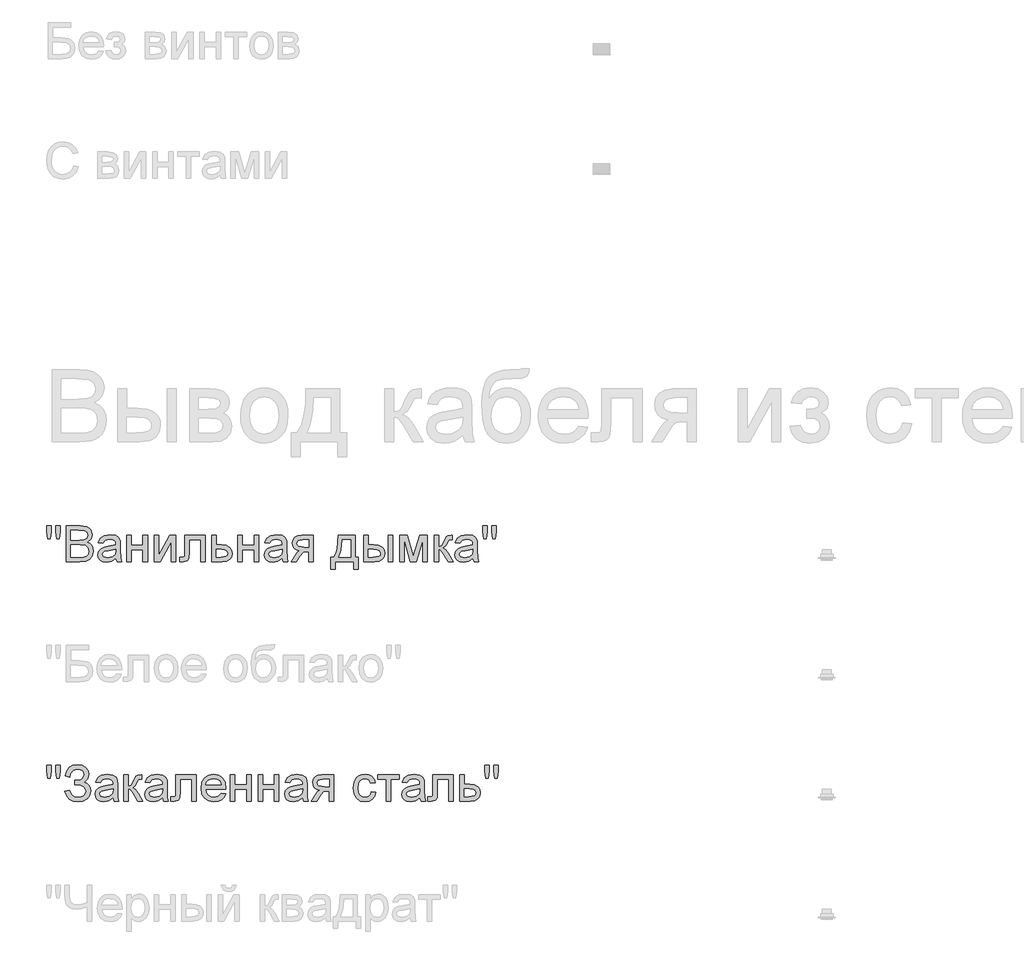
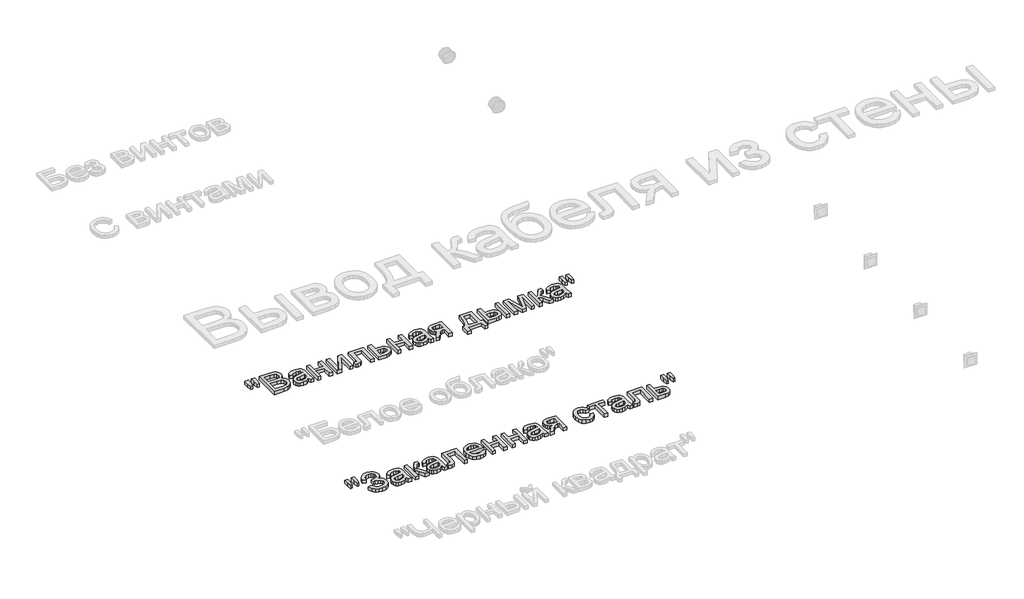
# One storey, part 99 of 168: 2 proxies.
"""IFC4 building model written with IfcOpenShell, lengths in millimetres."""

from ifc_helpers import new_model, si_unit, origin, origin_with_axes, place, context, project, spatial, polyline, outline, extrude, element, save

model = new_model("IFC4")

# Units and contexts
model_context = context("Model", 3, world=origin())
ifc_project = project(units=[si_unit("LENGTHUNIT", "METRE", prefix="MILLI")], contexts=[model_context])

# Site, building, storey
site = spatial("IfcSite", under=ifc_project)
building = spatial("IfcBuilding", under=site)
storey = spatial("IfcBuildingStorey", under=building, Name="Этаж 01", Elevation=0.0)

# Proxies
placement = place(None, origin())
element("IfcBuildingElementProxy", 1, Name="150", ObjectType="150", at=placement, inside=storey, context=model_context, shape_type="SweptSolid", body=[
    extrude(outline(polyline([(32880.1485789, -22851.873446), (32875.550054, -22822.7739802), (32875.550054, -22797.7212163), (32894.3856121, -22797.7212163), (32894.3856121, -22822.7739802), (32890.2653338, -22851.873446), (32880.1485789, -22851.873446)])), origin_with_axes(), (0.0, 0.0, 1.0), 20.0),
    extrude(outline(polyline([(32917.7093306, -22851.873446), (32913.2211703, -22822.7739802), (32913.2211703, -22797.7212163), (32932.0567284, -22797.7212163), (32932.0567284, -22822.7739802), (32927.6421445, -22851.873446), (32917.7093306, -22851.873446)])), origin_with_axes(), (0.0, 0.0, 1.0), 20.0),
    extrude(outline(polyline([(32957.9556209, -22948.4056816), (32957.9556209, -22797.7212163), (33015.4555767, -22797.7212163), (33043.6169435, -22802.1541944), (33053.0807078, -22807.7781904), (33060.2452096, -22815.7842223), (33066.2600803, -22835.0612389), (33061.2017028, -22852.6643923), (33045.9162059, -22866.0001146), (33056.5893823, -22871.5735269), (33064.4758526, -22880.0532069), (33069.3456905, -22890.8781346), (33070.9689698, -22903.48729), (33066.5359918, -22923.7391938), (33055.5547142, -22938.160168), (33039.1655713, -22945.8121135), (33015.0141183, -22948.4056816), (32957.9556209, -22948.4056816)]), holes=[polyline([(32976.791179, -22858.9367803), (33011.1881456, -22858.9367803), (33031.2745025, -22857.3180996), (33043.3594261, -22850.3467358), (33047.4245221, -22838.0778712), (33043.6353376, -22825.7906126), (33032.7828187, -22818.5249432), (33008.5761834, -22816.5567745), (32976.791179, -22816.5567745), (32976.791179, -22858.9367803)]), polyline([(32976.791179, -22929.5701234), (33015.4187885, -22929.5701234), (33029.3983043, -22928.8343594), (33041.2257105, -22924.7324752), (33049.061597, -22916.3631598), (33052.1334117, -22903.671231), (33048.5281681, -22889.0295275), (33036.8479148, -22880.2923302), (33013.5793786, -22877.7723385), (32976.791179, -22877.7723385), (32976.791179, -22929.5701234)])]), origin_with_axes(), (0.0, 0.0, 1.0), 20.0),
    extrude(outline(polyline([(33165.1467606, -22934.279013), (33146.8814195, -22947.0445182), (33126.7030921, -22950.7601263), (33110.9623412, -22948.5252432), (33099.3510657, -22941.8205939), (33092.1911624, -22931.6394596), (33089.804528, -22918.975122), (33093.4097715, -22904.0759012), (33102.8827329, -22893.2601705), (33116.0713024, -22887.079753), (33132.3684748, -22884.2470616), (33165.036396, -22877.7723385), (33165.1467606, -22873.5784838), (33163.8499765, -22865.1723802), (33159.9596244, -22859.6725443), (33151.2592153, -22855.5890542), (33139.1375035, -22854.2278908), (33120.0812162, -22857.8515285), (33110.9945309, -22870.7090042), (33092.1589727, -22868.3545594), (33100.3075589, -22849.9604597), (33116.7150959, -22839.1815172), (33141.5655247, -22835.3923327), (33164.3926025, -22838.7400588), (33177.2868664, -22847.1461624), (33183.0626137, -22859.9300617), (33183.9823187, -22876.4111751), (33183.9823187, -22899.8452582), (33184.9388119, -22932.5683617), (33188.6912083, -22948.4056816), (33169.8556501, -22948.4056816), (33165.1467606, -22934.279013)]), holes=[polyline([(33165.1467606, -22896.6078966), (33134.7597078, -22902.383644), (33118.5545059, -22905.4370645), (33111.2152601, -22910.4034715), (33108.6400861, -22917.6507468), (33114.2502865, -22927.841078), (33130.7130058, -22931.9245682), (33149.7692932, -22927.4180137), (33162.0565518, -22916.5103126), (33165.036396, -22901.9421856), (33165.1467606, -22896.6078966)])]), origin_with_axes(), (0.0, 0.0, 1.0), 20.0),
    extrude(outline(polyline([(33209.8812112, -22837.7467774), (33228.7167693, -22837.7467774), (33228.7167693, -22880.1267833), (33278.1601095, -22880.1267833), (33278.1601095, -22837.7467774), (33296.9956676, -22837.7467774), (33296.9956676, -22948.4056816), (33278.1601095, -22948.4056816), (33278.1601095, -22898.9623414), (33228.7167693, -22898.9623414), (33228.7167693, -22948.4056816), (33209.8812112, -22948.4056816), (33209.8812112, -22837.7467774)])), origin_with_axes(), (0.0, 0.0, 1.0), 20.0),
    extrude(outline(polyline([(33325.2490049, -22837.7467774), (33344.084563, -22837.7467774), (33344.084563, -22922.1389071), (33390.364118, -22837.7467774), (33414.7179061, -22837.7467774), (33414.7179061, -22948.4056816), (33395.8823479, -22948.4056816), (33395.8823479, -22864.5285867), (33349.8970985, -22948.4056816), (33325.2490049, -22948.4056816), (33325.2490049, -22837.7467774)])), origin_with_axes(), (0.0, 0.0, 1.0), 20.0),
    extrude(outline(polyline([(33452.3890224, -22837.7467774), (33537.1490341, -22837.7467774), (33537.1490341, -22948.295317), (33518.3134759, -22948.295317), (33518.3134759, -22856.5823356), (33471.2245806, -22856.5823356), (33471.2245806, -22909.3734019), (33469.9553877, -22933.72719), (33462.9840239, -22944.0094917), (33446.5029105, -22948.4056816), (33431.1990195, -22947.4491884), (33431.1990195, -22929.5701234), (33439.6235172, -22929.5701234), (33448.1399854, -22928.4112951), (33451.5428938, -22924.7324752), (33452.3890224, -22908.3065441), (33452.3890224, -22837.7467774)])), origin_with_axes(), (0.0, 0.0, 1.0), 20.0),
    extrude(outline(polyline([(33565.4023713, -22837.7467774), (33584.2379295, -22837.7467774), (33584.2379295, -22877.7723385), (33605.9429672, -22877.7723385), (33624.7601312, -22880.1313818), (33638.6844648, -22887.2085117), (33647.2929034, -22898.433511), (33650.162383, -22913.2361628), (33647.7205663, -22926.7144394), (33640.395116, -22938.0865916), (33627.6985887, -22945.8259091), (33609.1435405, -22948.4056816), (33565.4023713, -22948.4056816), (33565.4023713, -22837.7467774)]), holes=[polyline([(33584.2379295, -22929.5701234), (33601.8226888, -22929.5701234), (33624.539402, -22925.615392), (33629.6299692, -22920.552416), (33631.3268249, -22913.272951), (33626.3052356, -22901.6846682), (33618.2348244, -22897.8770895), (33604.066769, -22896.6078966), (33584.2379295, -22896.6078966), (33584.2379295, -22929.5701234)])]), origin_with_axes(), (0.0, 0.0, 1.0), 20.0),
    extrude(outline(polyline([(33673.7068307, -22837.7467774), (33692.5423889, -22837.7467774), (33692.5423889, -22880.1267833), (33741.985729, -22880.1267833), (33741.985729, -22837.7467774), (33760.8212872, -22837.7467774), (33760.8212872, -22948.4056816), (33741.985729, -22948.4056816), (33741.985729, -22898.9623414), (33692.5423889, -22898.9623414), (33692.5423889, -22948.4056816), (33673.7068307, -22948.4056816), (33673.7068307, -22837.7467774)])), origin_with_axes(), (0.0, 0.0, 1.0), 20.0),
    extrude(outline(polyline([(33859.7079675, -22934.279013), (33841.4426264, -22947.0445182), (33821.264299, -22950.7601263), (33805.5235481, -22948.5252432), (33793.9122726, -22941.8205939), (33786.7523693, -22931.6394596), (33784.3657349, -22918.975122), (33787.9709784, -22904.0759012), (33797.4439398, -22893.2601705), (33810.6325093, -22887.079753), (33826.9296817, -22884.2470616), (33859.5976029, -22877.7723385), (33859.7079675, -22873.5784838), (33858.4111834, -22865.1723802), (33854.5208313, -22859.6725443), (33845.8204221, -22855.5890542), (33833.6987104, -22854.2278908), (33814.6424231, -22857.8515285), (33805.5557378, -22870.7090042), (33786.7201796, -22868.3545594), (33794.8687658, -22849.9604597), (33811.2763028, -22839.1815172), (33836.1267316, -22835.3923327), (33858.9538094, -22838.7400588), (33871.8480733, -22847.1461624), (33877.6238206, -22859.9300617), (33878.5435256, -22876.4111751), (33878.5435256, -22899.8452582), (33879.5000188, -22932.5683617), (33883.2524152, -22948.4056816), (33864.416857, -22948.4056816), (33859.7079675, -22934.279013)]), holes=[polyline([(33859.7079675, -22896.6078966), (33829.3209147, -22902.383644), (33813.1157128, -22905.4370645), (33805.776467, -22910.4034715), (33803.201293, -22917.6507468), (33808.8114934, -22927.841078), (33825.2742127, -22931.9245682), (33844.3305001, -22927.4180137), (33856.6177587, -22916.5103126), (33859.5976029, -22901.9421856), (33859.7079675, -22896.6078966)])]), origin_with_axes(), (0.0, 0.0, 1.0), 20.0),
    extrude(outline(polyline([(33989.2024298, -22837.7467774), (33989.2024298, -22948.4056816), (33970.3668716, -22948.4056816), (33970.3668716, -22906.0256757), (33960.1029639, -22906.0256757), (33946.1234481, -22908.4169087), (33932.9900609, -22924.4933519), (33917.9804755, -22948.4056816), (33896.2018614, -22948.4056816), (33915.1109959, -22918.1657816), (33923.4619172, -22907.3132627), (33931.1506509, -22902.4940086), (33918.2747811, -22898.5484742), (33909.224884, -22891.0528785), (33903.872201, -22881.0832765), (33902.0879733, -22869.7157228), (33904.5251915, -22856.8214589), (33911.8368462, -22846.6127335), (33923.7654199, -22839.9632664), (33940.0533952, -22837.7467774), (33989.2024298, -22837.7467774)]), holes=[polyline([(33970.3668716, -22856.5823356), (33945.5348369, -22856.5823356), (33932.7095509, -22857.672186), (33925.4300859, -22860.9417372), (33920.9235315, -22871.1504626), (33922.583599, -22878.32876), (33927.5638015, -22883.3089625), (33951.0898551, -22887.1901176), (33970.3668716, -22887.1901176), (33970.3668716, -22856.5823356)])]), origin_with_axes(), (0.0, 0.0, 1.0), 20.0),
    extrude(outline(polyline([(34092.7979996, -22837.7467774), (34163.4313427, -22837.7467774), (34163.4313427, -22929.5701234), (34177.5580113, -22929.5701234), (34177.5580113, -22979.0134636), (34158.7224531, -22979.0134636), (34158.7224531, -22948.4056816), (34081.0257758, -22948.4056816), (34081.0257758, -22979.0134636), (34062.1902176, -22979.0134636), (34062.1902176, -22929.5701234), (34073.9624415, -22929.5701234), (34082.5202964, -22914.105284), (34088.5121744, -22893.6464466), (34092.7979996, -22837.7467774)]), holes=[polyline([(34109.279113, -22856.5823356), (34104.864529, -22899.4957703), (34095.1524444, -22929.5701234), (34144.5957845, -22929.5701234), (34144.5957845, -22856.5823356), (34109.279113, -22856.5823356)])]), origin_with_axes(), (0.0, 0.0, 1.0), 20.0),
    extrude(outline(polyline([(34302.3435841, -22837.7467774), (34321.1791422, -22837.7467774), (34321.1791422, -22948.4056816), (34302.3435841, -22948.4056816), (34302.3435841, -22837.7467774)])), origin_with_axes(), (0.0, 0.0, 1.0), 20.0),
    extrude(outline(polyline([(34198.7480142, -22837.7467774), (34217.5835724, -22837.7467774), (34217.5835724, -22877.7723385), (34240.8705027, -22877.7723385), (34260.9982463, -22880.1313818), (34275.9112627, -22887.2085117), (34285.1405023, -22898.433511), (34288.2169154, -22913.2361628), (34285.637143, -22926.7144394), (34277.8978255, -22938.0865916), (34264.4931253, -22945.8259091), (34244.9172046, -22948.4056816), (34198.7480142, -22948.4056816), (34198.7480142, -22837.7467774)]), holes=[polyline([(34217.5835724, -22929.5701234), (34236.9341653, -22929.5701234), (34261.9133528, -22925.615392), (34267.5143562, -22920.552416), (34269.3813573, -22913.272951), (34263.8447333, -22901.6846682), (34254.9649816, -22897.8770895), (34239.3989747, -22896.6078966), (34217.5835724, -22896.6078966), (34217.5835724, -22929.5701234)])]), origin_with_axes(), (0.0, 0.0, 1.0), 20.0),
    extrude(outline(polyline([(34349.4324794, -22837.7467774), (34381.8428832, -22837.7467774), (34406.8220707, -22926.3327619), (34433.7510327, -22837.7467774), (34464.8002731, -22837.7467774), (34464.8002731, -22948.4056816), (34445.964715, -22948.4056816), (34445.964715, -22859.3046623), (34418.8886001, -22948.4056816), (34394.1669301, -22948.4056816), (34368.2680376, -22855.0372312), (34368.2680376, -22948.4056816), (34349.4324794, -22948.4056816), (34349.4324794, -22837.7467774)])), origin_with_axes(), (0.0, 0.0, 1.0), 20.0),
    extrude(outline(polyline([(34493.0536104, -22837.7467774), (34511.8891685, -22837.7467774), (34511.8891685, -22884.8356728), (34524.5075209, -22881.4511584), (34534.845005, -22861.7326835), (34543.4350496, -22844.7181412), (34551.0134187, -22839.1815172), (34564.7905994, -22837.7467774), (34568.395843, -22837.7467774), (34568.395843, -22856.6927002), (34563.3190714, -22856.5823356), (34554.1220216, -22858.5688983), (34547.6472984, -22870.9665216), (34540.0505352, -22884.3758203), (34529.4003515, -22890.9425139), (34541.2829399, -22898.2725627), (34552.9447992, -22913.7144094), (34573.1047325, -22948.4056816), (34551.6940004, -22948.4056816), (34531.9387372, -22914.4501734), (34522.0059234, -22900.0843815), (34511.8891685, -22896.6078966), (34511.8891685, -22948.4056816), (34493.0536104, -22948.4056816), (34493.0536104, -22837.7467774)])), origin_with_axes(), (0.0, 0.0, 1.0), 20.0),
    extrude(outline(polyline([(34655.5102994, -22934.279013), (34637.2449584, -22947.0445182), (34617.0666309, -22950.7601263), (34601.3258801, -22948.5252432), (34589.7146046, -22941.8205939), (34582.5547013, -22931.6394596), (34580.1680668, -22918.975122), (34583.7733104, -22904.0759012), (34593.2462717, -22893.2601705), (34606.4348413, -22887.079753), (34622.7320137, -22884.2470616), (34655.3999348, -22877.7723385), (34655.5102994, -22873.5784838), (34654.2135154, -22865.1723802), (34650.3231633, -22859.6725443), (34641.6227541, -22855.5890542), (34629.5010424, -22854.2278908), (34610.444755, -22857.8515285), (34601.3580697, -22870.7090042), (34582.5225116, -22868.3545594), (34590.6710978, -22849.9604597), (34607.0786348, -22839.1815172), (34631.9290635, -22835.3923327), (34654.7561413, -22838.7400588), (34667.6504053, -22847.1461624), (34673.4261526, -22859.9300617), (34674.3458576, -22876.4111751), (34674.3458576, -22899.8452582), (34675.3023508, -22932.5683617), (34679.0547471, -22948.4056816), (34660.219189, -22948.4056816), (34655.5102994, -22934.279013)]), holes=[polyline([(34655.5102994, -22896.6078966), (34625.1232466, -22902.383644), (34608.9180447, -22905.4370645), (34601.5787989, -22910.4034715), (34599.003625, -22917.6507468), (34604.6138254, -22927.841078), (34621.0765447, -22931.9245682), (34640.132832, -22927.4180137), (34652.4200907, -22916.5103126), (34655.3999348, -22901.9421856), (34655.5102994, -22896.6078966)])]), origin_with_axes(), (0.0, 0.0, 1.0), 20.0),
    extrude(outline(polyline([(34700.1343854, -22851.873446), (34695.5358605, -22822.7739802), (34695.5358605, -22797.7212163), (34714.3714187, -22797.7212163), (34714.3714187, -22822.7739802), (34710.2511403, -22851.873446), (34700.1343854, -22851.873446)])), origin_with_axes(), (0.0, 0.0, 1.0), 20.0),
    extrude(outline(polyline([(34737.6951372, -22851.873446), (34733.2069768, -22822.7739802), (34733.2069768, -22797.7212163), (34752.042535, -22797.7212163), (34752.042535, -22822.7739802), (34747.627951, -22851.873446), (34737.6951372, -22851.873446)])), origin_with_axes(), (0.0, 0.0, 1.0), 20.0),
])
element("IfcBuildingElementProxy", 2, Name="150", ObjectType="150", at=placement, inside=storey, context=model_context, shape_type="SweptSolid", body=[
    extrude(outline(polyline([(32880.1485789, -23851.873446), (32875.550054, -23822.7739802), (32875.550054, -23797.7212163), (32894.3856121, -23797.7212163), (32894.3856121, -23822.7739802), (32890.2653338, -23851.873446), (32880.1485789, -23851.873446)])), origin_with_axes(), (0.0, 0.0, 1.0), 20.0),
    extrude(outline(polyline([(32917.7093306, -23851.873446), (32913.2211703, -23822.7739802), (32913.2211703, -23797.7212163), (32932.0567284, -23797.7212163), (32932.0567284, -23822.7739802), (32927.6421445, -23851.873446), (32917.7093306, -23851.873446)])), origin_with_axes(), (0.0, 0.0, 1.0), 20.0),
    extrude(outline(polyline([(32950.8922866, -23906.0256757), (32969.7278447, -23901.3167862), (32981.2977335, -23921.7158428), (32992.2284273, -23929.3723868), (33006.2217387, -23931.9245682), (33020.398991, -23930.0069833), (33031.2193202, -23924.2542286), (33038.0757209, -23915.7883442), (33040.3611878, -23905.7313701), (33037.8641888, -23895.1961495), (33030.3731916, -23887.0613589), (33018.5779752, -23881.8604272), (33003.1683181, -23880.1267833), (32993.2722924, -23880.1267833), (32993.2722924, -23861.2912251), (33014.591054, -23859.7645148), (33027.6324708, -23851.9654165), (33033.2978535, -23837.7099892), (33031.4124583, -23828.8394346), (33025.7562726, -23821.2104817), (33016.8811195, -23815.9543677), (33005.3388219, -23814.2023297), (32986.1169876, -23819.591801), (32975.117316, -23833.8840165), (32972.0822895, -23847.1645565), (32953.2467313, -23842.455667), (32959.0983543, -23821.8542752), (32969.7002536, -23807.1389954), (32985.0524291, -23798.3098275), (33005.1548809, -23795.3667716), (33024.5468605, -23798.4247907), (33039.4598769, -23807.5988479), (33048.965028, -23820.8655924), (33052.1334117, -23836.201673), (33047.2037929, -23854.8440931), (33032.4149367, -23868.7592296), (33042.8903765, -23873.5830823), (33051.5080123, -23881.7270699), (33057.2745625, -23892.4922168), (33059.196746, -23905.1795471), (33055.508729, -23923.0172254), (33044.444678, -23937.6819214), (33027.2921799, -23947.4905751), (33005.3388219, -23950.7601263), (32986.2365493, -23947.9642232), (32970.7947025, -23939.5765137), (32959.0132816, -23925.5969979), (32950.8922866, -23906.0256757)])), origin_with_axes(), (0.0, 0.0, 1.0), 20.0),
    extrude(outline(polyline([(33153.3745367, -23934.279013), (33135.1091957, -23947.0445182), (33114.9308682, -23950.7601263), (33099.1901174, -23948.5252432), (33087.5788419, -23941.8205939), (33080.4189386, -23931.6394596), (33078.0323041, -23918.975122), (33081.6375477, -23904.0759012), (33091.110509, -23893.2601705), (33104.2990786, -23887.079753), (33120.596251, -23884.2470616), (33153.2641721, -23877.7723385), (33153.3745367, -23873.5784838), (33152.0777527, -23865.1723802), (33148.1874006, -23859.6725443), (33139.4869914, -23855.5890542), (33127.3652797, -23854.2278908), (33108.3089923, -23857.8515285), (33099.222307, -23870.7090042), (33080.3867489, -23868.3545594), (33088.5353351, -23849.9604597), (33104.9428721, -23839.1815172), (33129.7933008, -23835.3923327), (33152.6203786, -23838.7400588), (33165.5146426, -23847.1461624), (33171.2903899, -23859.9300617), (33172.2100949, -23876.4111751), (33172.2100949, -23899.8452582), (33173.1665881, -23932.5683617), (33176.9189844, -23948.4056816), (33158.0834263, -23948.4056816), (33153.3745367, -23934.279013)]), holes=[polyline([(33153.3745367, -23896.6078966), (33122.9874839, -23902.383644), (33106.782282, -23905.4370645), (33099.4430362, -23910.4034715), (33096.8678623, -23917.6507468), (33102.4780627, -23927.841078), (33118.940782, -23931.9245682), (33137.9970693, -23927.4180137), (33150.284328, -23916.5103126), (33153.2641721, -23901.9421856), (33153.3745367, -23896.6078966)])]), origin_with_axes(), (0.0, 0.0, 1.0), 20.0),
    extrude(outline(polyline([(33198.1089873, -23837.7467774), (33216.9445455, -23837.7467774), (33216.9445455, -23884.8356728), (33229.5628979, -23881.4511584), (33239.900382, -23861.7326835), (33248.4904266, -23844.7181412), (33256.0687957, -23839.1815172), (33269.8459764, -23837.7467774), (33273.4512199, -23837.7467774), (33273.4512199, -23856.6927002), (33268.3744484, -23856.5823356), (33259.1773985, -23858.5688983), (33252.7026754, -23870.9665216), (33245.1059122, -23884.3758203), (33234.4557285, -23890.9425139), (33246.3383169, -23898.2725627), (33258.0001762, -23913.7144094), (33278.1601095, -23948.4056816), (33256.7493774, -23948.4056816), (33236.9941142, -23914.4501734), (33227.0613004, -23900.0843815), (33216.9445455, -23896.6078966), (33216.9445455, -23948.4056816), (33198.1089873, -23948.4056816), (33198.1089873, -23837.7467774)])), origin_with_axes(), (0.0, 0.0, 1.0), 20.0),
    extrude(outline(polyline([(33360.5656764, -23934.279013), (33342.3003353, -23947.0445182), (33322.1220079, -23950.7601263), (33306.381257, -23948.5252432), (33294.7699816, -23941.8205939), (33287.6100782, -23931.6394596), (33285.2234438, -23918.975122), (33288.8286873, -23904.0759012), (33298.3016487, -23893.2601705), (33311.4902183, -23887.079753), (33327.7873906, -23884.2470616), (33360.4553118, -23877.7723385), (33360.5656764, -23873.5784838), (33359.2688924, -23865.1723802), (33355.3785403, -23859.6725443), (33346.6781311, -23855.5890542), (33334.5564193, -23854.2278908), (33315.500132, -23857.8515285), (33306.4134467, -23870.7090042), (33287.5778886, -23868.3545594), (33295.7264748, -23849.9604597), (33312.1340117, -23839.1815172), (33336.9844405, -23835.3923327), (33359.8115183, -23838.7400588), (33372.7057822, -23847.1461624), (33378.4815296, -23859.9300617), (33379.4012346, -23876.4111751), (33379.4012346, -23899.8452582), (33380.3577277, -23932.5683617), (33384.1101241, -23948.4056816), (33365.2745659, -23948.4056816), (33360.5656764, -23934.279013)]), holes=[polyline([(33360.5656764, -23896.6078966), (33330.1786236, -23902.383644), (33313.9734217, -23905.4370645), (33306.6341759, -23910.4034715), (33304.0590019, -23917.6507468), (33309.6692024, -23927.841078), (33326.1319217, -23931.9245682), (33345.188209, -23927.4180137), (33357.4754676, -23916.5103126), (33360.4553118, -23901.9421856), (33360.5656764, -23896.6078966)])]), origin_with_axes(), (0.0, 0.0, 1.0), 20.0),
    extrude(outline(polyline([(33414.7179061, -23837.7467774), (33499.4779178, -23837.7467774), (33499.4779178, -23948.295317), (33480.6423596, -23948.295317), (33480.6423596, -23856.5823356), (33433.5534643, -23856.5823356), (33433.5534643, -23909.3734019), (33432.2842714, -23933.72719), (33425.3129076, -23944.0094917), (33408.8317942, -23948.4056816), (33393.5279032, -23947.4491884), (33393.5279032, -23929.5701234), (33401.9524009, -23929.5701234), (33410.4688691, -23928.4112951), (33413.8717775, -23924.7324752), (33414.7179061, -23908.3065441), (33414.7179061, -23837.7467774)])), origin_with_axes(), (0.0, 0.0, 1.0), 20.0),
    extrude(outline(polyline([(33605.2072032, -23915.4434548), (33623.6748794, -23917.7978996), (33617.0208138, -23931.713036), (33606.4028197, -23942.1148995), (33592.0600204, -23948.5988196), (33574.2315392, -23950.7601263), (33552.1310283, -23947.0307226), (33535.1256831, -23935.8425114), (33524.2823613, -23917.9220597), (33520.6679207, -23893.9959345), (33524.3191495, -23869.2650674), (33535.2728359, -23850.7698), (33552.0482549, -23839.2366995), (33573.1646814, -23835.3923327), (33593.6235189, -23839.2275025), (33609.971275, -23850.7330118), (33620.6904367, -23869.191491), (33624.2634906, -23893.8855699), (33624.153126, -23898.9623414), (33539.5034789, -23898.9623414), (33542.763833, -23913.0614189), (33550.3376036, -23923.4264941), (33561.2682974, -23929.8000497), (33574.5994212, -23931.9245682), (33593.0670974, -23927.9882308), (33605.2072032, -23915.4434548)]), holes=[polyline([(33539.5034789, -23880.1267833), (33605.4279324, -23880.1267833), (33602.8803496, -23870.1755753), (33597.8863515, -23863.0570587), (33586.9050739, -23856.4351828), (33573.091105, -23854.2278908), (33560.3945777, -23855.9891259), (33549.8961452, -23861.272831), (33542.5982861, -23869.5087892), (33539.5034789, -23880.1267833)])]), origin_with_axes(), (0.0, 0.0, 1.0), 20.0),
    extrude(outline(polyline([(33643.0990487, -23837.7467774), (33661.9346069, -23837.7467774), (33661.9346069, -23880.1267833), (33711.377947, -23880.1267833), (33711.377947, -23837.7467774), (33730.2135052, -23837.7467774), (33730.2135052, -23948.4056816), (33711.377947, -23948.4056816), (33711.377947, -23898.9623414), (33661.9346069, -23898.9623414), (33661.9346069, -23948.4056816), (33643.0990487, -23948.4056816), (33643.0990487, -23837.7467774)])), origin_with_axes(), (0.0, 0.0, 1.0), 20.0),
    extrude(outline(polyline([(33758.4668424, -23837.7467774), (33777.3024005, -23837.7467774), (33777.3024005, -23880.1267833), (33826.7457407, -23880.1267833), (33826.7457407, -23837.7467774), (33845.5812988, -23837.7467774), (33845.5812988, -23948.4056816), (33826.7457407, -23948.4056816), (33826.7457407, -23898.9623414), (33777.3024005, -23898.9623414), (33777.3024005, -23948.4056816), (33758.4668424, -23948.4056816), (33758.4668424, -23837.7467774)])), origin_with_axes(), (0.0, 0.0, 1.0), 20.0),
    extrude(outline(polyline([(33944.4679792, -23934.279013), (33926.2026381, -23947.0445182), (33906.0243107, -23950.7601263), (33890.2835598, -23948.5252432), (33878.6722843, -23941.8205939), (33871.512381, -23931.6394596), (33869.1257465, -23918.975122), (33872.7309901, -23904.0759012), (33882.2039515, -23893.2601705), (33895.392521, -23887.079753), (33911.6896934, -23884.2470616), (33944.3576146, -23877.7723385), (33944.4679792, -23873.5784838), (33943.1711951, -23865.1723802), (33939.280843, -23859.6725443), (33930.5804338, -23855.5890542), (33918.4587221, -23854.2278908), (33899.4024347, -23857.8515285), (33890.3157495, -23870.7090042), (33871.4801913, -23868.3545594), (33879.6287775, -23849.9604597), (33896.0363145, -23839.1815172), (33920.8867433, -23835.3923327), (33943.7138211, -23838.7400588), (33956.608085, -23847.1461624), (33962.3838323, -23859.9300617), (33963.3035373, -23876.4111751), (33963.3035373, -23899.8452582), (33964.2600305, -23932.5683617), (33968.0124268, -23948.4056816), (33949.1768687, -23948.4056816), (33944.4679792, -23934.279013)]), holes=[polyline([(33944.4679792, -23896.6078966), (33914.0809264, -23902.383644), (33897.8757245, -23905.4370645), (33890.5364787, -23910.4034715), (33887.9613047, -23917.6507468), (33893.5715051, -23927.841078), (33910.0342244, -23931.9245682), (33929.0905118, -23927.4180137), (33941.3777704, -23916.5103126), (33944.3576146, -23901.9421856), (33944.4679792, -23896.6078966)])]), origin_with_axes(), (0.0, 0.0, 1.0), 20.0),
    extrude(outline(polyline([(34073.9624415, -23837.7467774), (34073.9624415, -23948.4056816), (34055.1268833, -23948.4056816), (34055.1268833, -23906.0256757), (34044.8629756, -23906.0256757), (34030.8834598, -23908.4169087), (34017.7500726, -23924.4933519), (34002.7404872, -23948.4056816), (33980.9618731, -23948.4056816), (33999.8710076, -23918.1657816), (34008.2219289, -23907.3132627), (34015.9106626, -23902.4940086), (34003.0347928, -23898.5484742), (33993.9848957, -23891.0528785), (33988.6322127, -23881.0832765), (33986.847985, -23869.7157228), (33989.2852032, -23856.8214589), (33996.5968579, -23846.6127335), (34008.5254316, -23839.9632664), (34024.8134069, -23837.7467774), (34073.9624415, -23837.7467774)]), holes=[polyline([(34055.1268833, -23856.5823356), (34030.2948486, -23856.5823356), (34017.4695626, -23857.672186), (34010.1900976, -23860.9417372), (34005.6835431, -23871.1504626), (34007.3436107, -23878.32876), (34012.3238132, -23883.3089625), (34035.8498668, -23887.1901176), (34055.1268833, -23887.1901176), (34055.1268833, -23856.5823356)])]), origin_with_axes(), (0.0, 0.0, 1.0), 20.0),
    extrude(outline(polyline([(34231.710241, -23908.3801205), (34250.5457991, -23910.7345653), (34245.2942837, -23927.4869916), (34235.4258491, -23940.1467308), (34221.8693976, -23948.1067774), (34205.5538311, -23950.7601263), (34185.518058, -23947.0583138), (34169.8508835, -23935.952876), (34159.7387272, -23917.9312568), (34156.3680084, -23893.4808997), (34157.8073467, -23876.7192763), (34162.1253616, -23862.192536), (34169.391031, -23850.4616989), (34179.6733328, -23842.087785), (34191.974387, -23837.0661957), (34205.2963137, -23835.3923327), (34221.2118085, -23837.6915951), (34233.9359271, -23844.5893825), (34243.0639991, -23855.7178129), (34248.1913544, -23870.7090042), (34229.3557962, -23873.063449), (34220.6185988, -23858.9551744), (34205.4434665, -23854.2278908), (34193.271171, -23856.5547444), (34183.6096701, -23863.5353053), (34177.3050924, -23875.5466524), (34175.2035665, -23892.9658649), (34177.2591072, -23910.6196021), (34183.4257291, -23922.672336), (34192.9124861, -23929.6115101), (34204.9284317, -23931.9245682), (34214.6819031, -23930.4806314), (34222.678738, -23926.1488209), (34228.4958721, -23918.8187721), (34231.710241, -23908.3801205)])), origin_with_axes(), (0.0, 0.0, 1.0), 20.0),
    extrude(outline(polyline([(34257.6091334, -23837.7467774), (34347.0780347, -23837.7467774), (34347.0780347, -23856.5823356), (34311.7613631, -23856.5823356), (34311.7613631, -23948.4056816), (34292.925805, -23948.4056816), (34292.925805, -23856.5823356), (34257.6091334, -23856.5823356), (34257.6091334, -23837.7467774)])), origin_with_axes(), (0.0, 0.0, 1.0), 20.0),
    extrude(outline(polyline([(34434.1924911, -23934.279013), (34415.9271501, -23947.0445182), (34395.7488226, -23950.7601263), (34380.0080718, -23948.5252432), (34368.3967963, -23941.8205939), (34361.236893, -23931.6394596), (34358.8502585, -23918.975122), (34362.4555021, -23904.0759012), (34371.9284634, -23893.2601705), (34385.117033, -23887.079753), (34401.4142054, -23884.2470616), (34434.0821265, -23877.7723385), (34434.1924911, -23873.5784838), (34432.8957071, -23865.1723802), (34429.005355, -23859.6725443), (34420.3049458, -23855.5890542), (34408.1832341, -23854.2278908), (34389.1269467, -23857.8515285), (34380.0402614, -23870.7090042), (34361.2047033, -23868.3545594), (34369.3532895, -23849.9604597), (34385.7608265, -23839.1815172), (34410.6112552, -23835.3923327), (34433.438333, -23838.7400588), (34446.332597, -23847.1461624), (34452.1083443, -23859.9300617), (34453.0280493, -23876.4111751), (34453.0280493, -23899.8452582), (34453.9845425, -23932.5683617), (34457.7369388, -23948.4056816), (34438.9013807, -23948.4056816), (34434.1924911, -23934.279013)]), holes=[polyline([(34434.1924911, -23896.6078966), (34403.8054383, -23902.383644), (34387.6002364, -23905.4370645), (34380.2609906, -23910.4034715), (34377.6858167, -23917.6507468), (34383.2960171, -23927.841078), (34399.7587364, -23931.9245682), (34418.8150237, -23927.4180137), (34431.1022824, -23916.5103126), (34434.0821265, -23901.9421856), (34434.1924911, -23896.6078966)])]), origin_with_axes(), (0.0, 0.0, 1.0), 20.0),
    extrude(outline(polyline([(34488.3447208, -23837.7467774), (34573.1047325, -23837.7467774), (34573.1047325, -23948.295317), (34554.2691744, -23948.295317), (34554.2691744, -23856.5823356), (34507.180279, -23856.5823356), (34507.180279, -23909.3734019), (34505.9110861, -23933.72719), (34498.9397223, -23944.0094917), (34482.4586089, -23948.4056816), (34467.1547179, -23947.4491884), (34467.1547179, -23929.5701234), (34475.5792156, -23929.5701234), (34484.0956838, -23928.4112951), (34487.4985922, -23924.7324752), (34488.3447208, -23908.3065441), (34488.3447208, -23837.7467774)])), origin_with_axes(), (0.0, 0.0, 1.0), 20.0),
    extrude(outline(polyline([(34601.3580697, -23837.7467774), (34620.1936279, -23837.7467774), (34620.1936279, -23877.7723385), (34641.8986656, -23877.7723385), (34660.7158297, -23880.1313818), (34674.6401632, -23887.2085117), (34683.2486019, -23898.433511), (34686.1180814, -23913.2361628), (34683.6762647, -23926.7144394), (34676.3508145, -23938.0865916), (34663.6542871, -23945.8259091), (34645.099239, -23948.4056816), (34601.3580697, -23948.4056816), (34601.3580697, -23837.7467774)]), holes=[polyline([(34620.1936279, -23929.5701234), (34637.7783873, -23929.5701234), (34660.4951005, -23925.615392), (34665.5856676, -23920.552416), (34667.2825233, -23913.272951), (34662.260934, -23901.6846682), (34654.1905228, -23897.8770895), (34640.0224674, -23896.6078966), (34620.1936279, -23896.6078966), (34620.1936279, -23929.5701234)])]), origin_with_axes(), (0.0, 0.0, 1.0), 20.0),
    extrude(outline(polyline([(34709.5521645, -23851.873446), (34704.9536396, -23822.7739802), (34704.9536396, -23797.7212163), (34723.7891977, -23797.7212163), (34723.7891977, -23822.7739802), (34719.6689194, -23851.873446), (34709.5521645, -23851.873446)])), origin_with_axes(), (0.0, 0.0, 1.0), 20.0),
    extrude(outline(polyline([(34747.1129162, -23851.873446), (34742.6247559, -23822.7739802), (34742.6247559, -23797.7212163), (34761.460314, -23797.7212163), (34761.460314, -23822.7739802), (34757.0457301, -23851.873446), (34747.1129162, -23851.873446)])), origin_with_axes(), (0.0, 0.0, 1.0), 20.0),
])

save(model, "model.ifc")
